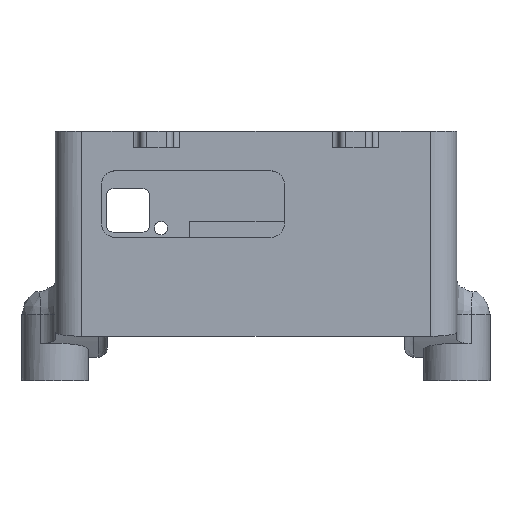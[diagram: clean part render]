
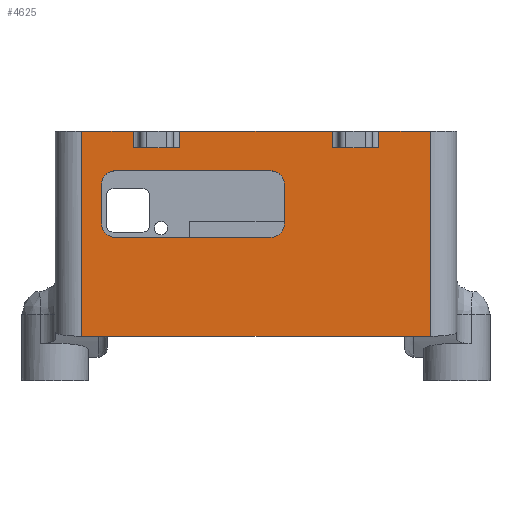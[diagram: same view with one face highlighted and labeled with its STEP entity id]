
A CAD part, top view. The second image highlights one B-rep face of the part: STEP entity #4625.
In plain terms, the highlighted planar face has unit normal (0, 0, 1).
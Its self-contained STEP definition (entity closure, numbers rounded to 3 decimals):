
#151=CARTESIAN_POINT('',(4.5,56.,160.));
#152=DIRECTION('',(0.,0.,-1.));
#153=DIRECTION('',(0.,1.,0.));
#154=AXIS2_PLACEMENT_3D('',#151,#152,#153);
#161=DIRECTION('',(0.,1.,0.));
#162=VECTOR('',#161,12.);
#163=CARTESIAN_POINT('',(8.5,44.,160.));
#164=LINE('',#163,#162);
#165=DIRECTION('',(-1.,0.,0.));
#166=VECTOR('',#165,47.);
#167=CARTESIAN_POINT('',(4.5,60.,160.));
#168=LINE('',#167,#166);
#169=DIRECTION('',(0.,-1.,0.));
#170=VECTOR('',#169,12.);
#171=CARTESIAN_POINT('',(-46.5,56.,160.));
#172=LINE('',#171,#170);
#173=DIRECTION('',(1.,0.,0.));
#174=VECTOR('',#173,47.);
#175=CARTESIAN_POINT('',(-42.5,40.,160.));
#176=LINE('',#175,#174);
#177=DIRECTION('',(0.,1.,0.));
#178=VECTOR('',#177,5.);
#179=CARTESIAN_POINT('',(37.,67.,160.));
#180=LINE('',#179,#178);
#181=DIRECTION('',(0.,1.,0.));
#182=VECTOR('',#181,61.8);
#183=CARTESIAN_POINT('',(52.5,10.2,160.));
#184=LINE('',#183,#182);
#185=DIRECTION('',(0.,-1.,0.));
#186=VECTOR('',#185,61.8);
#187=CARTESIAN_POINT('',(-52.5,72.,160.));
#188=LINE('',#187,#186);
#189=DIRECTION('',(0.,-1.,0.));
#190=VECTOR('',#189,5.);
#191=CARTESIAN_POINT('',(-37.,72.,160.));
#192=LINE('',#191,#190);
#193=DIRECTION('',(0.,1.,0.));
#194=VECTOR('',#193,5.);
#195=CARTESIAN_POINT('',(-23.,67.,160.));
#196=LINE('',#195,#194);
#197=DIRECTION('',(0.,-1.,0.));
#198=VECTOR('',#197,5.);
#199=CARTESIAN_POINT('',(23.,72.,160.));
#200=LINE('',#199,#198);
#209=CARTESIAN_POINT('',(4.5,44.,160.));
#210=DIRECTION('',(0.,0.,-1.));
#211=DIRECTION('',(1.,0.,0.));
#212=AXIS2_PLACEMENT_3D('',#209,#210,#211);
#227=CARTESIAN_POINT('',(-42.5,44.,160.));
#228=DIRECTION('',(0.,0.,-1.));
#229=DIRECTION('',(0.,-1.,0.));
#230=AXIS2_PLACEMENT_3D('',#227,#228,#229);
#245=CARTESIAN_POINT('',(-42.5,56.,160.));
#246=DIRECTION('',(0.,0.,-1.));
#247=DIRECTION('',(-1.,0.,0.));
#248=AXIS2_PLACEMENT_3D('',#245,#246,#247);
#366=DIRECTION('',(-1.,0.,0.));
#367=VECTOR('',#366,14.);
#368=CARTESIAN_POINT('',(37.,67.,160.));
#369=LINE('',#368,#367);
#392=DIRECTION('',(-1.,0.,0.));
#393=VECTOR('',#392,14.);
#394=CARTESIAN_POINT('',(-23.,67.,160.));
#395=LINE('',#394,#393);
#470=DIRECTION('',(1.,0.,0.));
#471=VECTOR('',#470,15.5);
#472=CARTESIAN_POINT('',(37.,72.,160.));
#473=LINE('',#472,#471);
#496=DIRECTION('',(1.,0.,0.));
#497=VECTOR('',#496,46.);
#498=CARTESIAN_POINT('',(-23.,72.,160.));
#499=LINE('',#498,#497);
#522=DIRECTION('',(1.,0.,0.));
#523=VECTOR('',#522,15.5);
#524=CARTESIAN_POINT('',(-52.5,72.,160.));
#525=LINE('',#524,#523);
#1502=CARTESIAN_POINT('',(-52.5,10.2,160.));
#1516=DIRECTION('',(-1.,0.,0.));
#1517=VECTOR('',#1516,105.);
#1518=CARTESIAN_POINT('',(52.5,10.2,160.));
#1519=LINE('',#1518,#1517);
#1532=CARTESIAN_POINT('',(52.5,10.2,160.));
#3577=CARTESIAN_POINT('',(8.5,44.,160.));
#3579=VERTEX_POINT('',#3577);
#3581=CARTESIAN_POINT('',(4.5,40.,160.));
#3583=VERTEX_POINT('',#3581);
#3585=CARTESIAN_POINT('',(4.5,60.,160.));
#3587=VERTEX_POINT('',#3585);
#3589=CARTESIAN_POINT('',(8.5,56.,160.));
#3591=VERTEX_POINT('',#3589);
#3593=CARTESIAN_POINT('',(-42.5,40.,160.));
#3595=VERTEX_POINT('',#3593);
#3597=CARTESIAN_POINT('',(-46.5,44.,160.));
#3599=VERTEX_POINT('',#3597);
#3601=CARTESIAN_POINT('',(-46.5,56.,160.));
#3603=VERTEX_POINT('',#3601);
#3605=CARTESIAN_POINT('',(-42.5,60.,160.));
#3607=VERTEX_POINT('',#3605);
#3629=VERTEX_POINT('',#1502);
#3632=CARTESIAN_POINT('',(-52.5,72.,160.));
#3634=VERTEX_POINT('',#3632);
#3635=CARTESIAN_POINT('',(52.5,72.,160.));
#3637=VERTEX_POINT('',#3635);
#3640=VERTEX_POINT('',#1532);
#3833=CARTESIAN_POINT('',(37.,67.,160.));
#3834=CARTESIAN_POINT('',(37.,72.,160.));
#3835=VERTEX_POINT('',#3833);
#3836=VERTEX_POINT('',#3834);
#3841=CARTESIAN_POINT('',(23.,72.,160.));
#3842=CARTESIAN_POINT('',(23.,67.,160.));
#3843=VERTEX_POINT('',#3841);
#3844=VERTEX_POINT('',#3842);
#3849=CARTESIAN_POINT('',(-23.,67.,160.));
#3850=CARTESIAN_POINT('',(-23.,72.,160.));
#3851=VERTEX_POINT('',#3849);
#3852=VERTEX_POINT('',#3850);
#3857=CARTESIAN_POINT('',(-37.,72.,160.));
#3858=CARTESIAN_POINT('',(-37.,67.,160.));
#3859=VERTEX_POINT('',#3857);
#3860=VERTEX_POINT('',#3858);
#4578=CARTESIAN_POINT('',(-60.5,25.,160.));
#4579=DIRECTION('',(0.,0.,1.));
#4580=DIRECTION('',(1.,0.,0.));
#4581=AXIS2_PLACEMENT_3D('',#4578,#4579,#4580);
#4582=PLANE('',#4581);
#4584=ORIENTED_EDGE('',*,*,#4583,.T.);
#4586=ORIENTED_EDGE('',*,*,#4585,.T.);
#4588=ORIENTED_EDGE('',*,*,#4587,.F.);
#4590=ORIENTED_EDGE('',*,*,#4589,.T.);
#4592=ORIENTED_EDGE('',*,*,#4591,.F.);
#4594=ORIENTED_EDGE('',*,*,#4593,.T.);
#4596=ORIENTED_EDGE('',*,*,#4595,.T.);
#4598=ORIENTED_EDGE('',*,*,#4597,.F.);
#4600=ORIENTED_EDGE('',*,*,#4599,.T.);
#4602=ORIENTED_EDGE('',*,*,#4601,.T.);
#4604=ORIENTED_EDGE('',*,*,#4603,.T.);
#4606=ORIENTED_EDGE('',*,*,#4605,.F.);
#4607=EDGE_LOOP('',(#4584,#4586,#4588,#4590,#4592,#4594,#4596,#4598,#4600,#4602,
#4604,#4606));
#4608=FACE_OUTER_BOUND('',#4607,.F.);
#4610=ORIENTED_EDGE('',*,*,#4609,.T.);
#4611=ORIENTED_EDGE('',*,*,#4570,.F.);
#4612=ORIENTED_EDGE('',*,*,#4559,.T.);
#4614=ORIENTED_EDGE('',*,*,#4613,.F.);
#4616=ORIENTED_EDGE('',*,*,#4615,.T.);
#4618=ORIENTED_EDGE('',*,*,#4617,.F.);
#4620=ORIENTED_EDGE('',*,*,#4619,.T.);
#4622=ORIENTED_EDGE('',*,*,#4621,.F.);
#4623=EDGE_LOOP('',(#4610,#4611,#4612,#4614,#4616,#4618,#4620,#4622));
#4624=FACE_BOUND('',#4623,.F.);
#4625=ADVANCED_FACE('',(#4608,#4624),#4582,.T.);
#155=CIRCLE('',#154,4.);
#213=CIRCLE('',#212,4.);
#231=CIRCLE('',#230,4.);
#249=CIRCLE('',#248,4.);
#4559=EDGE_CURVE('',#3587,#3607,#168,.T.);
#4570=EDGE_CURVE('',#3587,#3591,#155,.T.);
#4583=EDGE_CURVE('',#3835,#3836,#180,.T.);
#4585=EDGE_CURVE('',#3836,#3637,#473,.T.);
#4587=EDGE_CURVE('',#3640,#3637,#184,.T.);
#4589=EDGE_CURVE('',#3640,#3629,#1519,.T.);
#4591=EDGE_CURVE('',#3634,#3629,#188,.T.);
#4593=EDGE_CURVE('',#3634,#3859,#525,.T.);
#4595=EDGE_CURVE('',#3859,#3860,#192,.T.);
#4597=EDGE_CURVE('',#3851,#3860,#395,.T.);
#4599=EDGE_CURVE('',#3851,#3852,#196,.T.);
#4601=EDGE_CURVE('',#3852,#3843,#499,.T.);
#4603=EDGE_CURVE('',#3843,#3844,#200,.T.);
#4605=EDGE_CURVE('',#3835,#3844,#369,.T.);
#4609=EDGE_CURVE('',#3579,#3591,#164,.T.);
#4613=EDGE_CURVE('',#3603,#3607,#249,.T.);
#4615=EDGE_CURVE('',#3603,#3599,#172,.T.);
#4617=EDGE_CURVE('',#3595,#3599,#231,.T.);
#4619=EDGE_CURVE('',#3595,#3583,#176,.T.);
#4621=EDGE_CURVE('',#3579,#3583,#213,.T.);
